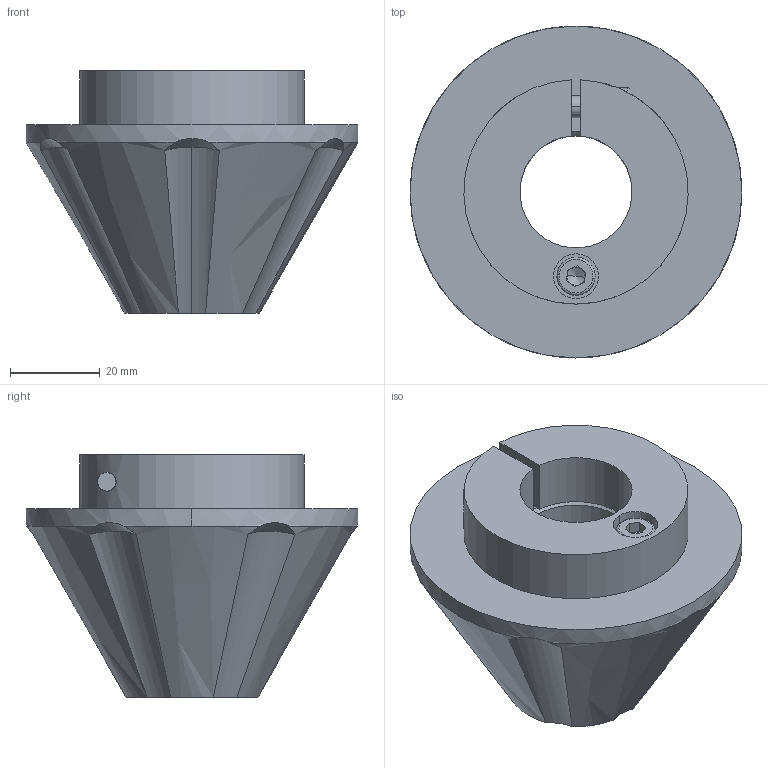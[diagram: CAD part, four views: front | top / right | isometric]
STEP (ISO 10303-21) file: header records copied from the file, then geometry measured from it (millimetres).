
FILE_DESCRIPTION (( 'STEP AP214' ), '1' );
FILE_NAME ('CL-25-F70.STEP', '2023-03-07T08:16:02', ( '' ), ( '' ), 'SwSTEP 2.0', 'SolidWorks 2022', '' );
FILE_SCHEMA (( 'AUTOMOTIVE_DESIGN' ));
Length unit declared in the file: millimetre
Products named in the file (1): CL-25-F70
Bounding box: 74 x 74 x 54 mm (x, y, z)
Volume: 95842 mm3; surface area: 23376.4 mm2
Topology: 4 solids, 4 shells, 112 faces, 267 edges, 164 vertices
Faces by surface type: plane 38, cylinder 36, cone 30, bspline 8
Entity records: 4985 total; most frequent: CARTESIAN_POINT 1177, ORIENTED_EDGE 522, DIRECTION 521, EDGE_CURVE 261, AXIS2_PLACEMENT_3D 210, VERTEX_POINT 164, EDGE_LOOP 127, UNCERTAINTY_MEASURE_WITH_UNIT 118
